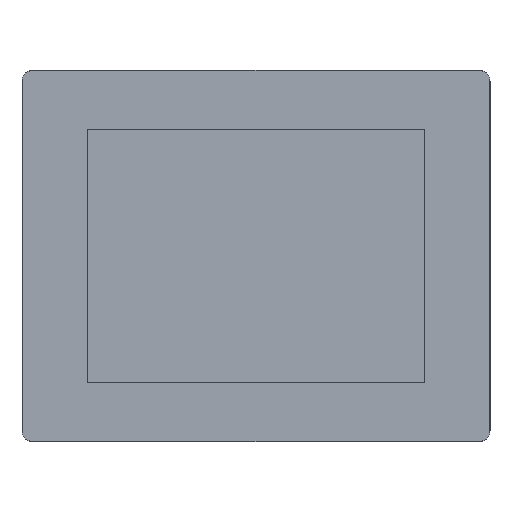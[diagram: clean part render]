
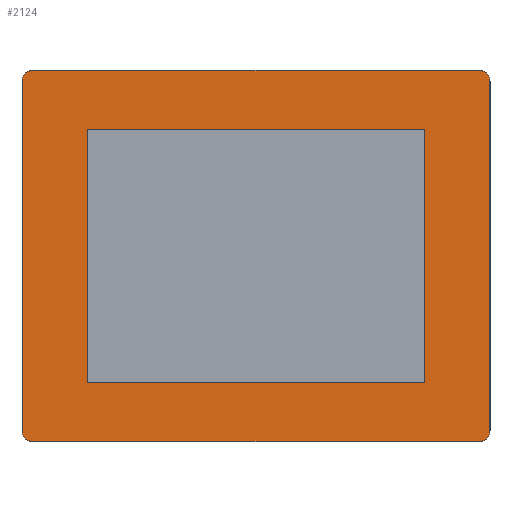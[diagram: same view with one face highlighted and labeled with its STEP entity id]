
A CAD part, front view. The second image highlights one B-rep face of the part: STEP entity #2124.
In plain terms, the highlighted planar face has unit normal (0, -1, 0).
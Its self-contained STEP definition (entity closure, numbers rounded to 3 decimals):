
#950=CARTESIAN_POINT('POINT75',(-58.85,-19.151,44.2));
#951=VERTEX_POINT('VERTEX75',#950);
#958=CARTESIAN_POINT('POINT76',(-58.85,-19.151,-44.2));
#959=VERTEX_POINT('VERTEX76',#958);
#960=CARTESIAN_POINT('POS117',(-58.85,-19.151,22.1));
#961=DIRECTION('DIR145',(0.,0.,
   1.));
#962=VECTOR('VEC89',#961,25.4);
#963=LINE('STRAIGHT89',#960,#962);
#964=EDGE_CURVE('EDGE92',#959,#951,#963,.T.);
#982=CARTESIAN_POINT('POINT77',(58.85,-19.151,-44.2));
#983=VERTEX_POINT('VERTEX77',#982);
#984=CARTESIAN_POINT('POS120',(-29.425,-19.151,-44.2));
#985=DIRECTION('DIR149',(-1.,0.,0.));
#986=VECTOR('VEC91',#985,25.4);
#987=LINE('STRAIGHT91',#984,#986);
#988=EDGE_CURVE('EDGE94',#983,#959,#987,.T.);
#1006=CARTESIAN_POINT('POINT78',(58.85,-19.151,44.2));
#1007=VERTEX_POINT('VERTEX78',#1006);
#1008=CARTESIAN_POINT('POS123',(58.85,-19.151,
   0.));
#1009=DIRECTION('DIR153',(0.,0.,-1.));
#1010=VECTOR('VEC93',#1009,25.4);
#1011=LINE('STRAIGHT93',#1008,#1010);
#1012=EDGE_CURVE('EDGE96',#1007,#983,#1011,.T.);
#1030=CARTESIAN_POINT('POS126',(29.425,-19.151,44.2));
#1031=DIRECTION('DIR157',(1.,0.,
   0.));
#1032=VECTOR('VEC95',#1031,25.4);
#1033=LINE('STRAIGHT95',#1030,#1032);
#1034=EDGE_CURVE('EDGE98',#951,#1007,#1033,.T.);
#2043=ORIENTED_EDGE('COEDGE319',*,*,#1034,.T.);
#2044=ORIENTED_EDGE('COEDGE320',*,*,#1012,.T.);
#2045=ORIENTED_EDGE('COEDGE321',*,*,#988,.T.);
#2046=ORIENTED_EDGE('COEDGE322',*,*,#964,.T.);
#2047=EDGE_LOOP('NONE',(#2043,#2044,#2045,#2046));
#2048=FACE_BOUND('LOOP1',#2047,.T.);
#2049=CARTESIAN_POINT('POINT129',(81.373,-19.151,-61.017)
   );
#2050=VERTEX_POINT('VERTEX129',#2049);
#2051=CARTESIAN_POINT('POINT130',(81.373,-19.151,61.017))
   ;
#2052=VERTEX_POINT('VERTEX130',#2051);
#2053=CARTESIAN_POINT('POS249',(81.373,-19.151,
   0.));
#2054=DIRECTION('DIR326',(0.,0.,1.));
#2055=VECTOR('VEC172',#2054,25.4);
#2056=LINE('STRAIGHT172',#2053,#2055);
#2057=EDGE_CURVE('EDGE187',#2050,#2052,#2056,.T.);
#2058=ORIENTED_EDGE('COEDGE323',*,*,#2057,.T.);
#2059=CARTESIAN_POINT('POINT131',(77.817,-19.151,64.573))
   ;
#2060=VERTEX_POINT('VERTEX131',#2059);
#2061=CARTESIAN_POINT('POS250',(77.817,-19.151,61.017));
#2062=DIRECTION('DIR327',(0.,-1.,0.));
#2063=DIRECTION('DIR328',(1.,0.,
   0.));
#2064=AXIS2_PLACEMENT_3D('AXIS78',#2061,#2062,#2063);
#2065=CIRCLE('ELLIPSE13',#2064,3.556);
#2066=EDGE_CURVE('EDGE188',#2052,#2060,#2065,.T.);
#2067=ORIENTED_EDGE('COEDGE324',*,*,#2066,.T.);
#2068=CARTESIAN_POINT('POINT132',(-77.817,-19.151,64.573)
   );
#2069=VERTEX_POINT('VERTEX132',#2068);
#2070=CARTESIAN_POINT('POS251',(77.817,-19.151,64.573));
#2071=DIRECTION('DIR329',(-1.,0.,
   0.));
#2072=VECTOR('VEC173',#2071,25.4);
#2073=LINE('STRAIGHT173',#2070,#2072);
#2074=EDGE_CURVE('EDGE189',#2060,#2069,#2073,.T.);
#2075=ORIENTED_EDGE('COEDGE325',*,*,#2074,.T.);
#2076=CARTESIAN_POINT('POINT133',(-81.373,-19.151,61.017)
   );
#2077=VERTEX_POINT('VERTEX133',#2076);
#2078=CARTESIAN_POINT('POS252',(-77.817,-19.151,61.017));
#2079=DIRECTION('DIR330',(0.,-1.,0.));
#2080=DIRECTION('DIR331',(0.,0.,
   1.));
#2081=AXIS2_PLACEMENT_3D('AXIS79',#2078,#2079,#2080);
#2082=CIRCLE('ELLIPSE14',#2081,3.556);
#2083=EDGE_CURVE('EDGE190',#2069,#2077,#2082,.T.);
#2084=ORIENTED_EDGE('COEDGE326',*,*,#2083,.T.);
#2085=CARTESIAN_POINT('POINT134',(-81.373,-19.151,-61.017
   ));
#2086=VERTEX_POINT('VERTEX134',#2085);
#2087=CARTESIAN_POINT('POS253',(-81.373,-19.151,61.017));
#2088=DIRECTION('DIR332',(0.,0.,
   -1.));
#2089=VECTOR('VEC174',#2088,25.4);
#2090=LINE('STRAIGHT174',#2087,#2089);
#2091=EDGE_CURVE('EDGE191',#2077,#2086,#2090,.T.);
#2092=ORIENTED_EDGE('COEDGE327',*,*,#2091,.T.);
#2093=CARTESIAN_POINT('POINT135',(-77.817,-19.151,-64.573
   ));
#2094=VERTEX_POINT('VERTEX135',#2093);
#2095=CARTESIAN_POINT('POS254',(-77.817,-19.151,-61.017))
   ;
#2096=DIRECTION('DIR333',(0.,-1.,0.));
#2097=DIRECTION('DIR334',(-1.,0.,
   0.));
#2098=AXIS2_PLACEMENT_3D('AXIS80',#2095,#2096,#2097);
#2099=CIRCLE('ELLIPSE15',#2098,3.556);
#2100=EDGE_CURVE('EDGE192',#2086,#2094,#2099,.T.);
#2101=ORIENTED_EDGE('COEDGE328',*,*,#2100,.T.);
#2102=CARTESIAN_POINT('POINT136',(77.817,-19.151,-64.573)
   );
#2103=VERTEX_POINT('VERTEX136',#2102);
#2104=CARTESIAN_POINT('POS255',(-77.817,-19.151,-64.573))
   ;
#2105=DIRECTION('DIR335',(1.,0.,0.));
#2106=VECTOR('VEC175',#2105,25.4);
#2107=LINE('STRAIGHT175',#2104,#2106);
#2108=EDGE_CURVE('EDGE193',#2094,#2103,#2107,.T.);
#2109=ORIENTED_EDGE('COEDGE329',*,*,#2108,.T.);
#2110=CARTESIAN_POINT('POS256',(77.817,-19.151,-61.017));
#2111=DIRECTION('DIR336',(0.,-1.,0.));
#2112=DIRECTION('DIR337',(0.,0.,
   -1.));
#2113=AXIS2_PLACEMENT_3D('AXIS81',#2110,#2111,#2112);
#2114=CIRCLE('ELLIPSE16',#2113,3.556);
#2115=EDGE_CURVE('EDGE194',#2103,#2050,#2114,.T.);
#2116=ORIENTED_EDGE('COEDGE330',*,*,#2115,.T.);
#2117=EDGE_LOOP('NONE',(#2058,#2067,#2075,#2084,#2092,#2101,#2109,#2116)
   );
#2118=FACE_BOUND('LOOP1',#2117,.T.);
#2119=CARTESIAN_POINT('POS257',(0.,-19.151,
   0.));
#2120=DIRECTION('DIR338',(0.,-1.,0.));
#2121=DIRECTION('DIR339',(1.,0.,0.));
#2122=AXIS2_PLACEMENT_3D('AXIS82',#2119,#2120,#2121);
#2123=PLANE('PLANE63',#2122);
#2124=ADVANCED_FACE('FACE69',(#2048,#2118),#2123,.T.);
